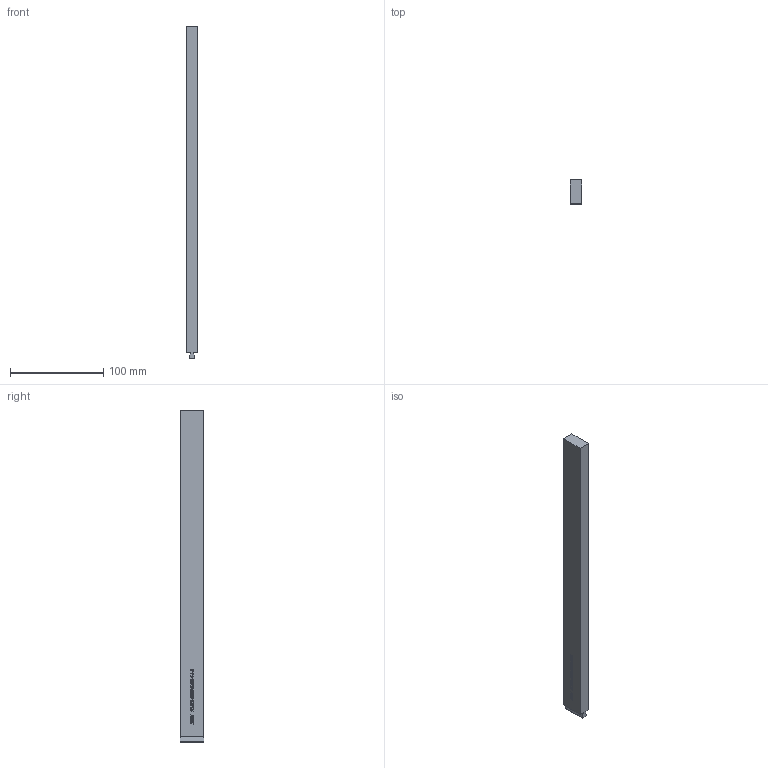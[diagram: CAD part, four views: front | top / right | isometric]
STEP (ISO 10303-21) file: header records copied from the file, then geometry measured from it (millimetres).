
FILE_DESCRIPTION (( 'STEP AP203' ), '1' );
FILE_NAME ('ALBD-1000-0500-14-5.STEP', '2021-01-11T21:09:42', ( '' ), ( '' ), 'SwSTEP 2.0', 'SolidWorks 2020', '' );
FILE_SCHEMA (( 'CONFIG_CONTROL_DESIGN' ));
Length unit declared in the file: inch
Products named in the file (1): ALBD-1000-0500-14-5
Bounding box: 12.7 x 25.4 x 355.6 mm (x, y, z)
Volume: 113443.5 mm3; surface area: 27745.2 mm2
Topology: 1 solids, 1 shells, 202 faces, 498 edges, 332 vertices
Faces by surface type: plane 151, bspline 51
Entity records: 7675 total; most frequent: CARTESIAN_POINT 3144, ORIENTED_EDGE 996, DIRECTION 700, EDGE_CURVE 498, LINE 396, VECTOR 396, VERTEX_POINT 332, EDGE_LOOP 236
